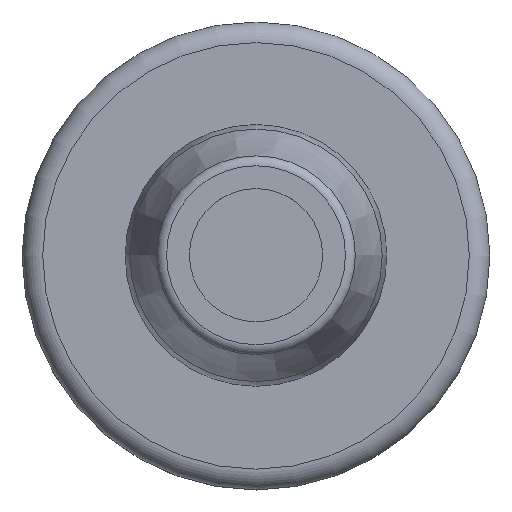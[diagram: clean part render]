
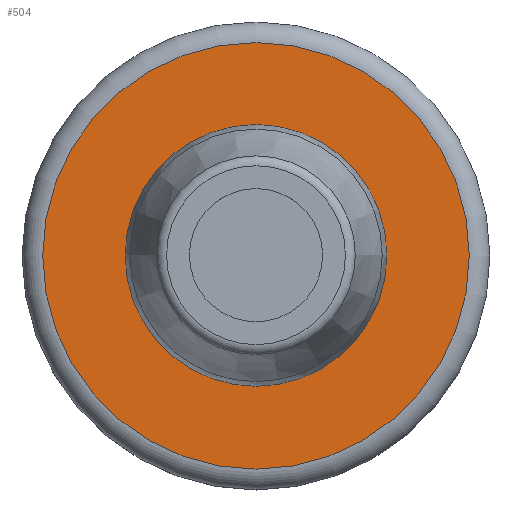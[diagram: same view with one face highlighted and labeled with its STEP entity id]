
A CAD part, top view. The second image highlights one B-rep face of the part: STEP entity #504.
In plain terms, the highlighted planar face has unit normal (0, 0, 1).
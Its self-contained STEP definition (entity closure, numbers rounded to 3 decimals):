
#38=PLANE('',#598);
#92=FACE_BOUND('',#212,.T.);
#132=FACE_OUTER_BOUND('',#211,.T.);
#211=EDGE_LOOP('',(#447));
#212=EDGE_LOOP('',(#448));
#222=CIRCLE('',#523,20.7);
#262=CIRCLE('',#597,11.059);
#268=VERTEX_POINT('',#791);
#308=VERTEX_POINT('',#965);
#314=EDGE_CURVE('',#268,#268,#222,.T.);
#356=EDGE_CURVE('',#308,#308,#262,.T.);
#447=ORIENTED_EDGE('',*,*,#314,.F.);
#448=ORIENTED_EDGE('',*,*,#356,.T.);
#504=ADVANCED_FACE('',(#132,#92),#38,.T.);
#523=AXIS2_PLACEMENT_3D('',#792,#615,#616);
#597=AXIS2_PLACEMENT_3D('',#966,#763,#764);
#598=AXIS2_PLACEMENT_3D('',#967,#765,#766);
#615=DIRECTION('center_axis',(0.,0.,-1.));
#616=DIRECTION('ref_axis',(1.,0.,0.));
#763=DIRECTION('center_axis',(0.,0.,-1.));
#764=DIRECTION('ref_axis',(1.,0.,0.));
#765=DIRECTION('center_axis',(0.,0.,1.));
#766=DIRECTION('ref_axis',(1.,0.,0.));
#791=CARTESIAN_POINT('',(-20.7,0.,-37.6));
#792=CARTESIAN_POINT('Origin',(0.,0.,-37.6));
#965=CARTESIAN_POINT('',(-11.059,0.,-37.6));
#966=CARTESIAN_POINT('Origin',(0.,0.,-37.6));
#967=CARTESIAN_POINT('Origin',(-20.7,0.,-37.6));
